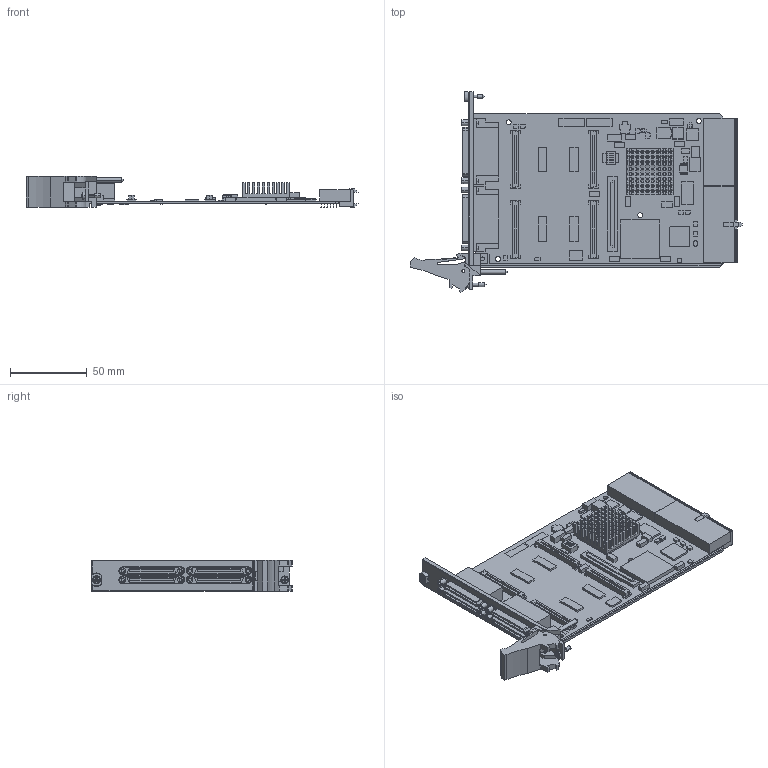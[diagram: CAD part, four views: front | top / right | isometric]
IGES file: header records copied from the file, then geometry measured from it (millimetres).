
Start section:  PTC IGES file: cu_pxi-781xr.igs
Global section: file name: cu_pxi-781xr.igs; native system: Pro/ENGINEER by Parametric Technology Corporation; preprocessor: 2006080; author: tvenable; organization: Unknown; date: 071031.135629; units: inch
Bounding box: 216.08 x 130.5 x 20.19 mm (x, y, z)
Surface area: 65168.8 mm2 (no closed solid volume)
Topology: 0 solids, 0 shells, 2202 faces, 11948 edges, 11944 vertices
Faces by surface type: bspline 1831, revolution 371
